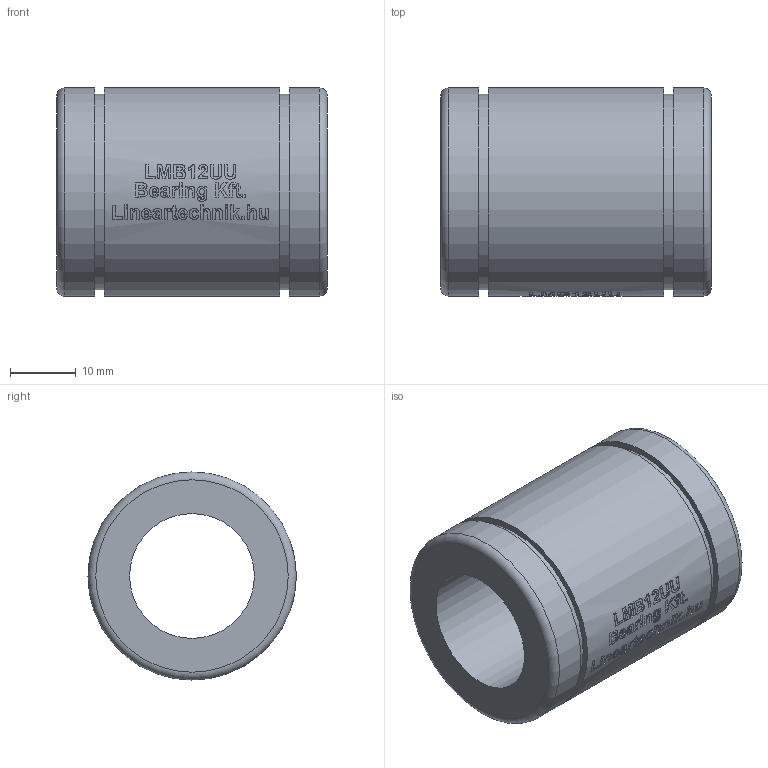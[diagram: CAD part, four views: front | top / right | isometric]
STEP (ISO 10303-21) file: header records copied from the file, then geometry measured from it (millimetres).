
FILE_DESCRIPTION(/* description */ (''),/* implementation_level */ '2;1');
FILE_NAME(/* name */ 'LMB12UU',/* time_stamp */ '2019-05-16T15:31:18+02:00',/* author */ ('VĂ©gh MĂˇtĂ©'),/* organization */ ('Bearing Kft'),/* preprocessor_version */ 'ST-DEVELOPER v16.7',/* originating_system */ 'DEX',/* authorisation */ $);
FILE_SCHEMA (('AUTOMOTIVE_DESIGN {1 0 10303 214 3 1 1}'));
Length unit declared in the file: millimetre
Products named in the file (1): LMB12UU
Bounding box: 41.27 x 31.75 x 31.75 mm (x, y, z)
Volume: 20589.9 mm3; surface area: 7871.8 mm2
Topology: 1 solids, 1 shells, 314 faces, 784 edges, 523 vertices
Faces by surface type: plane 162, bspline 97, cylinder 53, torus 2
Full cylindrical faces by diameter (mm): 19.05 x1, 29.87 x2, 31.75 x3
Entity records: 17101 total; most frequent: CARTESIAN_POINT 10115, ORIENTED_EDGE 1546, DIRECTION 1165, EDGE_CURVE 773, VERTEX_POINT 521, LINE 423, VECTOR 423, EDGE_LOOP 376
